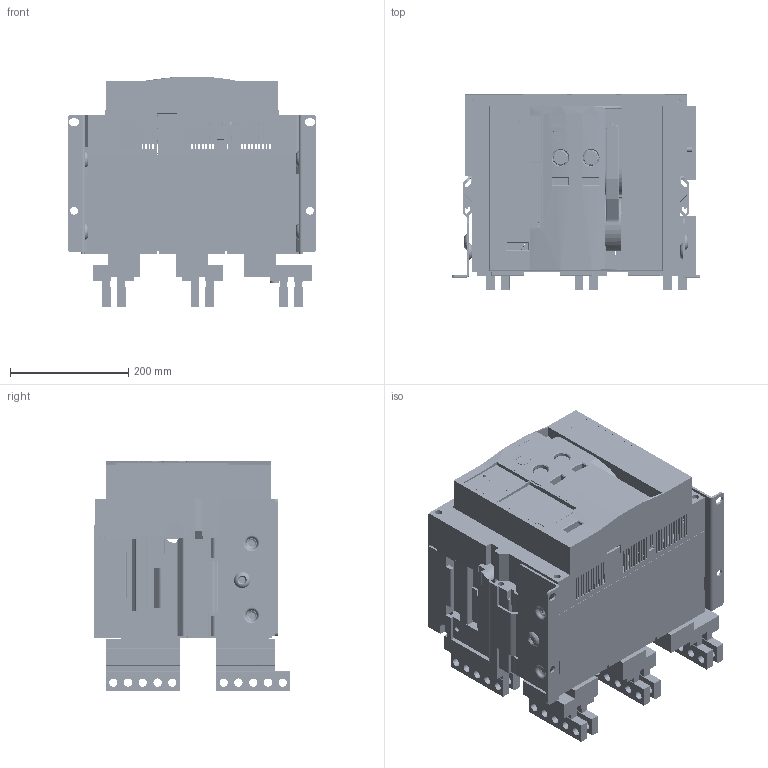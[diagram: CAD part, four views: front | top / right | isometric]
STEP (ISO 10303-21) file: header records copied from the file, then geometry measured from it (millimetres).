
FILE_DESCRIPTION (( 'STEP AP214' ), '1' );
FILE_NAME ('OptiMat A S4 3P BH (4000) 耱圉桀磬痦 忮痱桕嚯.STEP', '2023-01-19T12:57:17', ( '' ), ( '' ), 'SwSTEP 2.0', 'SolidWorks 2018', '' );
FILE_SCHEMA (( 'AUTOMOTIVE_DESIGN' ));
Length unit declared in the file: millimetre
Products named in the file (2): OptiMat A S4 3P BH (4000) 璋韶浯隆 粢韭琿
Bounding box: 421 x 332.3 x 390.81 mm (x, y, z)
Volume: 8096774.6 mm3; surface area: 2606438.5 mm2
Topology: 74 solids, 74 shells, 7072 faces, 18772 edges, 12119 vertices
Faces by surface type: plane 4026, cylinder 2037, cone 556, bspline 403, torus 50
Entity records: 250269 total; most frequent: CARTESIAN_POINT 74199, ORIENTED_EDGE 37258, DIRECTION 34964, EDGE_CURVE 18629, LINE 12144, VECTOR 12144, VERTEX_POINT 12119, AXIS2_PLACEMENT_3D 11410
